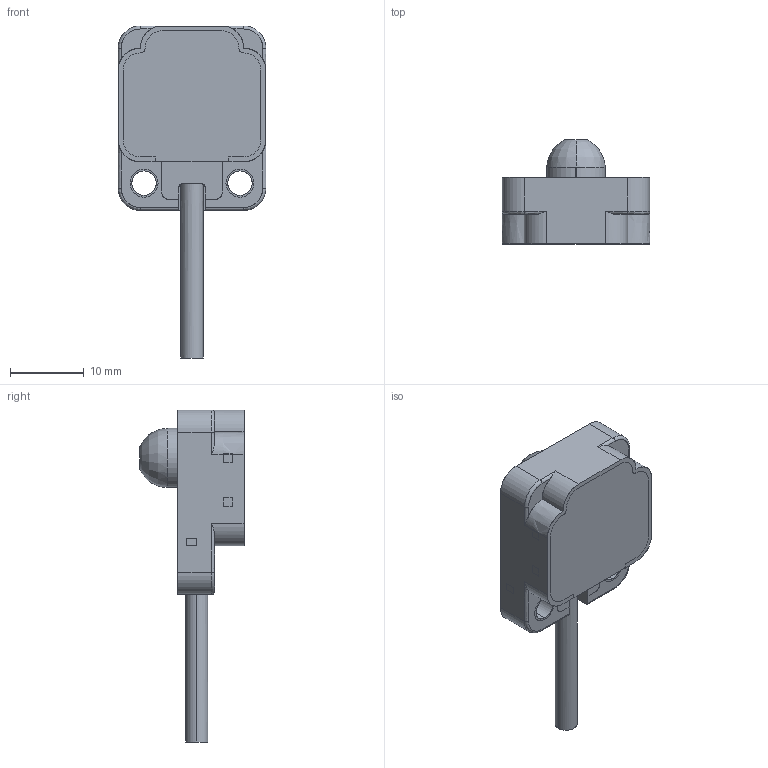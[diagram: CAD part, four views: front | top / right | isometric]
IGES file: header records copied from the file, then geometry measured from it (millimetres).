
Start section: SolidWorks IGES file using analytic representation for surfaces
Global section: file name: D:\权其捞瘤 档搁 犬厘磊 函券 累诀\颇飘1\BS5-P1ML_BS5-P1ML-P_BS5-P1MD_BS5-P1MD-P.IGS; native system: SolidWorks 2015; preprocessor: SolidWorks 2015; author: Administrator; date: 180719.113657; units: millimetre
Bounding box: 20 x 14.1 x 45 mm (x, y, z)
Surface area: 2060.3 mm2 (no closed solid volume)
Topology: 0 solids, 0 shells, 200 faces, 2054 edges, 2054 vertices
Faces by surface type: bspline 164, revolution 36
